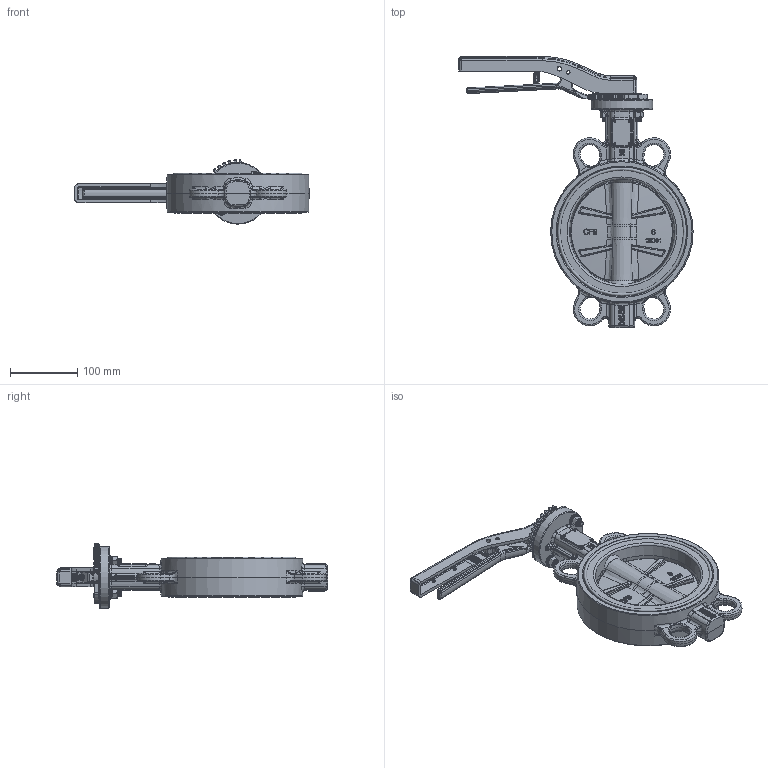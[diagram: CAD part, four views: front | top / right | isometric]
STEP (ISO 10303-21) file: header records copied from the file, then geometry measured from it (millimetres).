
FILE_DESCRIPTION(/* description */ (''),/* implementation_level */ '2;1');
FILE_NAME(/* name */ '',/* time_stamp */ '2024-06-19T15:35:00+07:00',/* author */ ('Eva'),/* organization */ (''),/* preprocessor_version */ 'ST-DEVELOPER v20',/* originating_system */ 'Autodesk Inventor 2025',/* authorisation */ '');
FILE_SCHEMA (('AUTOMOTIVE_DESIGN { 1 0 10303 214 3 1 1 }'));
Products named in the file (15): DN150装配; DN150·§Ме; 1802КЦ±ъDN125-150(Д¬ИП-
_flexible1); DN125-DN150 ЦчКЦ±ъ; DN125-DN150 ё±КЦ°С; DN125-DN150іЭЕМ; ЖЅµжИ¦ Cј¶(ЖЅµжИ¦C
ј¶ 6); ДЪБщЅЗФІЦщН·ВЭ¶¤(
ДЪБщЅЗФІЦщН·ВЭ¶¤ 
M6X16-S); µЇ»Й; DN150Ин·§Чщ; DN150·§°е; ЖЅµжИ¦ Cј¶(ЖЅµжИ¦C
ј¶ 8); ±кЧјРНµЇ»ЙµжИ¦(±
кЧјРНµЇ»ЙµжИ¦ 8); БщЅЗВЭДё Cј¶(
БщЅЗВЭДё Cј¶  M8-S); ДЪБщЅЗіБН·ВЭ¶¤(ДЪБщЅЗіБН·ВЭ¶¤ 
M8X40-S)
Assembly tree (18 placements, depth 3):
  DN150装配
    DN150·§Ме
    1802КЦ±ъDN125-150(Д¬ИП-
_flexible1)
      DN125-DN150 ЦчКЦ±ъ
      DN125-DN150 ё±КЦ°С
      DN125-DN150іЭЕМ
      ЖЅµжИ¦ Cј¶(ЖЅµжИ¦C
ј¶ 6)
      ДЪБщЅЗФІЦщН·ВЭ¶¤(
ДЪБщЅЗФІЦщН·ВЭ¶¤ 
M6X16-S)
      µЇ»Й
    DN150Ин·§Чщ
    DN150·§°е
    ДЪБщЅЗіБН·ВЭ¶¤(ДЪБщЅЗіБН·ВЭ¶¤ 
M8X40-S)  x2
    ЖЅµжИ¦ Cј¶(ЖЅµжИ¦C
ј¶ 8)  x2
    ±кЧјРНµЇ»ЙµжИ¦(±
кЧјРНµЇ»ЙµжИ¦ 8)  x2
    БщЅЗВЭДё Cј¶(
БщЅЗВЭДё Cј¶  M8-S)  x2
Bounding box: 349.25 x 404.49 x 95.9 mm (x, y, z)
Volume: 1685975.9 mm3; surface area: 378114.2 mm2
Topology: 17 solids, 17 shells, 2838 faces, 6958 edges, 4151 vertices
Faces by surface type: bspline 870, plane 622, cylinder 612, cone 464, torus 200, sphere 70
Full cylindrical faces by diameter (mm): 5 x3, 6 x24, 6.5 x2, 6.6 x1, 6.647 x20, 7 x4, 7.083 x1, 8 x68, 9 x4, 10 x1, 12 x2, 15.24 x2, 16 x2, 16.6 x2, 19.2 x6, 21.8 x1, 22 x2, 25 x1, 26 x2, 27 x1, 44 x1, 92 x1, 166.3 x2, 191.5 x2
Entity records: 127750 total; most frequent: CARTESIAN_POINT 68784, ORIENTED_EDGE 12882, DIRECTION 10960, EDGE_CURVE 6441, AXIS2_PLACEMENT_3D 4296, VERTEX_POINT 3875, EDGE_LOOP 2784, FACE_OUTER_BOUND 2665
